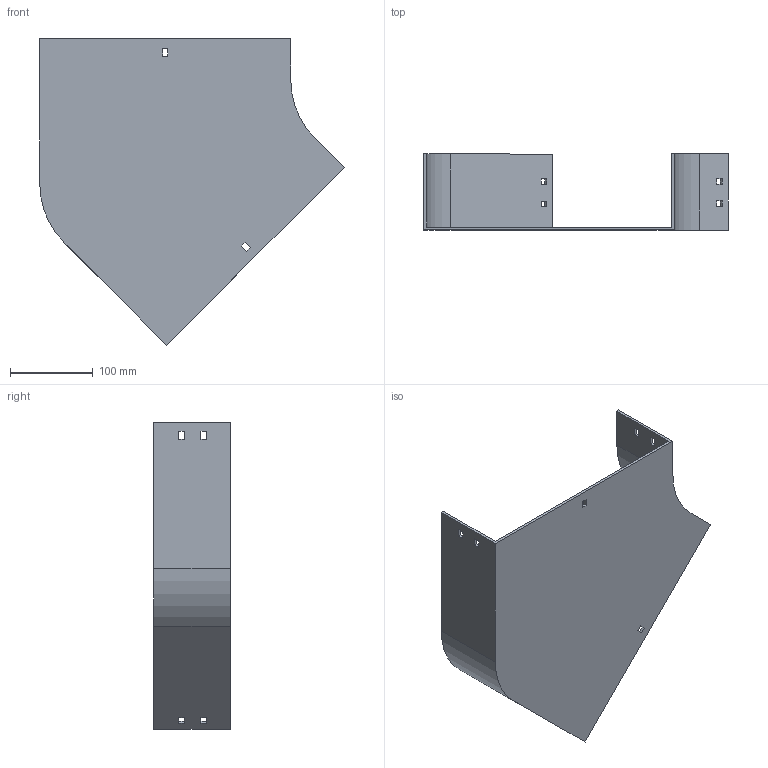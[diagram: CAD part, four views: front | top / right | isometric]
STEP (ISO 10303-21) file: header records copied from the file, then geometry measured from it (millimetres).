
FILE_DESCRIPTION (( 'STEP AP214' ), '1' );
FILE_NAME ('11B1I300.step', '2025-02-21T09:39:13', ( '' ), ( '' ), 'SwSTEP 2.0', 'SolidWorks 2023', '' );
FILE_SCHEMA (( 'AUTOMOTIVE_DESIGN' ));
Length unit declared in the file: millimetre
Products named in the file (1): 11B1I300
Bounding box: 368.64 x 92.5 x 371.03 mm (x, y, z)
Volume: 515834 mm3; surface area: 301436.5 mm2
Topology: 1 solids, 1 shells, 58 faces, 168 edges, 112 vertices
Faces by surface type: plane 54, cylinder 4
Entity records: 1943 total; most frequent: CARTESIAN_POINT 339, ORIENTED_EDGE 336, DIRECTION 294, EDGE_CURVE 168, VECTOR 160, LINE 160, VERTEX_POINT 112, EDGE_LOOP 78
